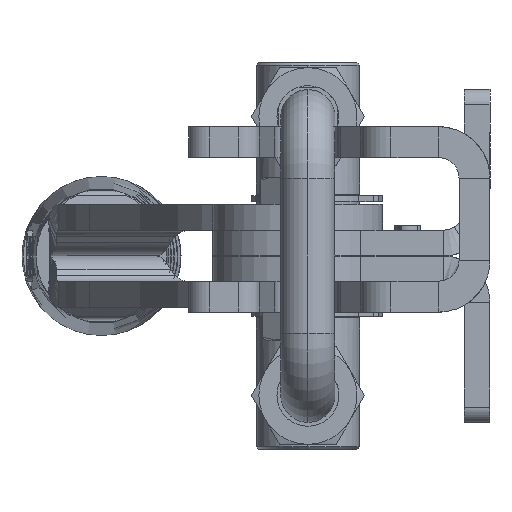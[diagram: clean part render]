
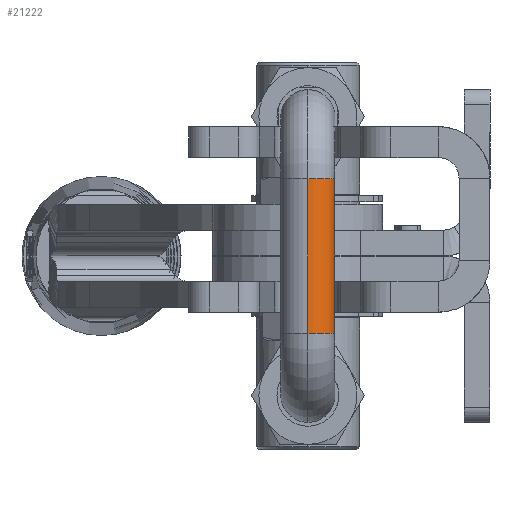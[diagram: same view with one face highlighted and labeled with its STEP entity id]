
A CAD part, left-side view. The second image highlights one B-rep face of the part: STEP entity #21222.
In plain terms, the highlighted cylindrical face has radius 5.25 mm (diameter 10.5 mm), a partial arc.
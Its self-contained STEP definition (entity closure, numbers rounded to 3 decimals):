
#724 = CARTESIAN_POINT ( 'NONE',  ( -5.25, 0., -15. ) ) ;
#728 = DIRECTION ( 'NONE',  ( 0., 0., -1. ) ) ;
#1381 = ORIENTED_EDGE ( 'NONE', *, *, #14480, .F. ) ;
#1625 = AXIS2_PLACEMENT_3D ( 'NONE', #8038, #18991, #14058 ) ;
#3679 = DIRECTION ( 'NONE',  ( 0., 0., 1. ) ) ;
#4098 = ORIENTED_EDGE ( 'NONE', *, *, #21649, .T. ) ;
#4125 = ORIENTED_EDGE ( 'NONE', *, *, #18047, .F. ) ;
#4616 = AXIS2_PLACEMENT_3D ( 'NONE', #22815, #23176, #14061 ) ;
#4658 = VECTOR ( 'NONE', #15075, 1000. ) ;
#5311 = LINE ( 'NONE', #14120, #13289 ) ;
#7842 = CARTESIAN_POINT ( 'NONE',  ( 0., 0., -15. ) ) ;
#8038 = CARTESIAN_POINT ( 'NONE',  ( 0., 0., -15. ) ) ;
#8404 = CIRCLE ( 'NONE', #21757, 5.25 ) ;
#10114 = VERTEX_POINT ( 'NONE', #10411 ) ;
#10411 = CARTESIAN_POINT ( 'NONE',  ( -5.25, 0., -15. ) ) ;
#11534 = VERTEX_POINT ( 'NONE', #17754 ) ;
#11606 = CYLINDRICAL_SURFACE ( 'NONE', #1625, 5.25 ) ;
#11679 = EDGE_CURVE ( 'NONE', #18921, #11534, #12966, .T. ) ;
#12421 = VERTEX_POINT ( 'NONE', #20725 ) ;
#12966 = CIRCLE ( 'NONE', #4616, 5.25 ) ;
#13289 = VECTOR ( 'NONE', #3679, 1000. ) ;
#13617 = FACE_OUTER_BOUND ( 'NONE', #14178, .T. ) ;
#14058 = DIRECTION ( 'NONE',  ( 1., 0., 0. ) ) ;
#14061 = DIRECTION ( 'NONE',  ( -1., 0., 0. ) ) ;
#14120 = CARTESIAN_POINT ( 'NONE',  ( 5.25, 0., -15. ) ) ;
#14178 = EDGE_LOOP ( 'NONE', ( #1381, #4098, #23225, #4125 ) ) ;
#14480 = EDGE_CURVE ( 'NONE', #10114, #12421, #8404, .T. ) ;
#14845 = LINE ( 'NONE', #724, #4658 ) ;
#15075 = DIRECTION ( 'NONE',  ( 0., 0., 1. ) ) ;
#16886 = DIRECTION ( 'NONE',  ( -1., 0., 0. ) ) ;
#17629 = CARTESIAN_POINT ( 'NONE',  ( -5.25, 0., 15. ) ) ;
#17754 = CARTESIAN_POINT ( 'NONE',  ( 5.25, 0., 15. ) ) ;
#18047 = EDGE_CURVE ( 'NONE', #12421, #11534, #5311, .T. ) ;
#18921 = VERTEX_POINT ( 'NONE', #17629 ) ;
#18991 = DIRECTION ( 'NONE',  ( 0., 0., 1. ) ) ;
#20725 = CARTESIAN_POINT ( 'NONE',  ( 5.25, 0., -15. ) ) ;
#21222 = ADVANCED_FACE ( 'NONE', ( #13617 ), #11606, .T. ) ;
#21649 = EDGE_CURVE ( 'NONE', #10114, #18921, #14845, .T. ) ;
#21757 = AXIS2_PLACEMENT_3D ( 'NONE', #7842, #728, #16886 ) ;
#22815 = CARTESIAN_POINT ( 'NONE',  ( 0., 0., 15. ) ) ;
#23176 = DIRECTION ( 'NONE',  ( 0., 0., -1. ) ) ;
#23225 = ORIENTED_EDGE ( 'NONE', *, *, #11679, .T. ) ;
